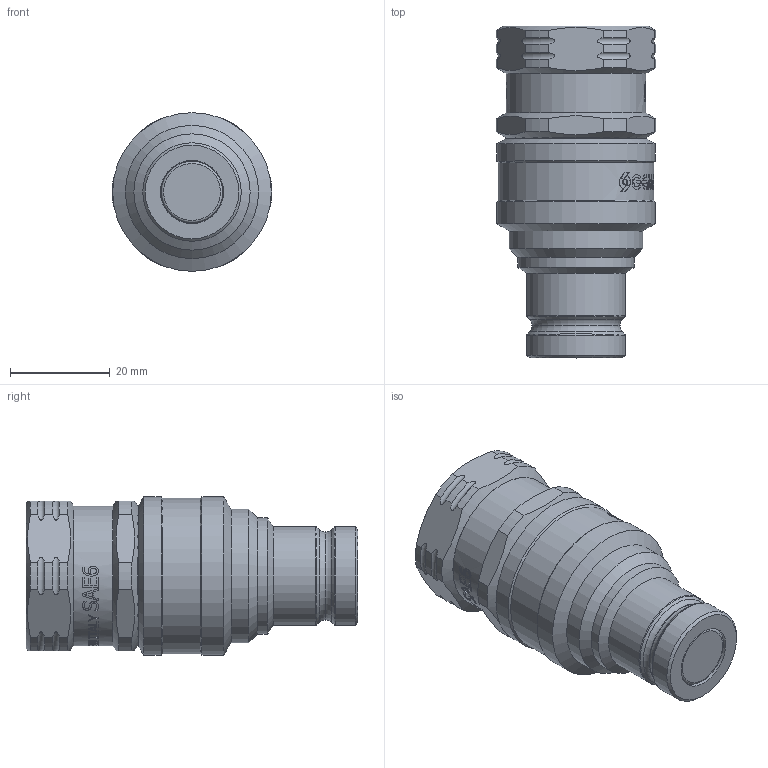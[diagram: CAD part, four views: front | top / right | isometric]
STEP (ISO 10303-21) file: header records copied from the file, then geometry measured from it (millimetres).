
FILE_DESCRIPTION(/* description */ (''),/* implementation_level */ '2;1');
FILE_NAME(/* name */ 'NC05S020000.stp',/* time_stamp */ '2024-11-19T11:22:56+01:00',/* author */ ('thomas.belotti'),/* organization */ (''),/* preprocessor_version */ 'ST-DEVELOPER v20',/* originating_system */ 'Autodesk Inventor 2024',/* authorisation */ '');
FILE_SCHEMA (('AUTOMOTIVE_DESIGN { 1 0 10303 214 3 1 1 }'));
Length unit declared in the file: millimetre
Products named in the file (1): Parte15
Bounding box: 31.95 x 66.5 x 31.8 mm (x, y, z)
Volume: 36656.6 mm3; surface area: 8343.7 mm2
Topology: 1 solids, 1 shells, 1101 faces, 3141 edges, 2085 vertices
Faces by surface type: bspline 716, plane 260, cylinder 90, torus 18, cone 17
Full cylindrical faces by diameter (mm): 12.55 x1, 12.65 x1, 12.9 x1, 13 x1, 17.65 x1, 19.75 x2, 23.3 x1, 26 x1, 26.3 x1, 26.7 x1, 28 x1, 31.1 x1, 31.8 x2
Entity records: 48078 total; most frequent: CARTESIAN_POINT 23008, ORIENTED_EDGE 6282, EDGE_CURVE 3141, DIRECTION 2772, VERTEX_POINT 2085, B_SPLINE_CURVE_WITH_KNOTS 1508, LINE 1210, VECTOR 1210
